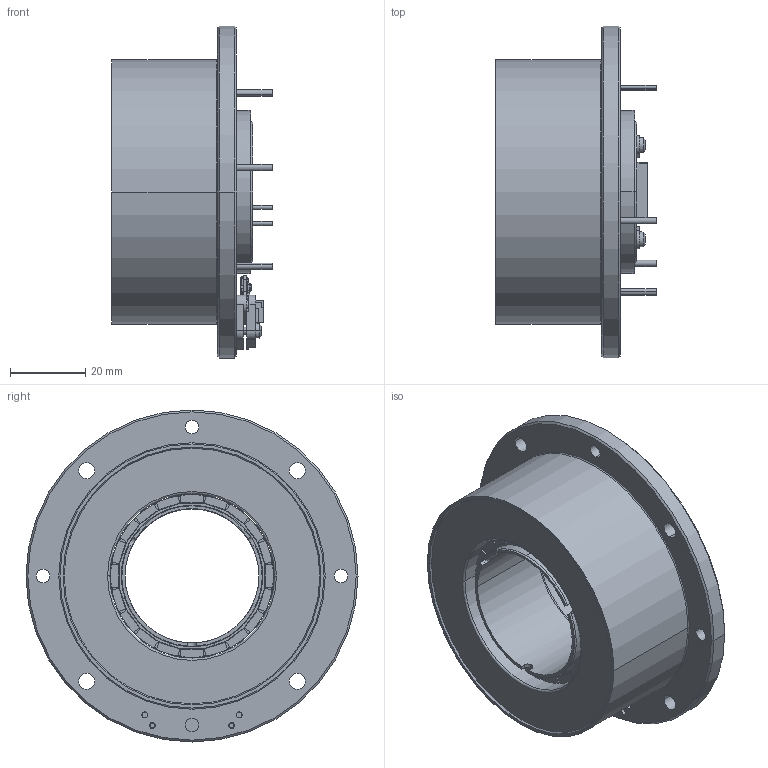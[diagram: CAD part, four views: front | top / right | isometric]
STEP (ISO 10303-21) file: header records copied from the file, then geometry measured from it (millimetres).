
FILE_DESCRIPTION((''),'2;1');
FILE_NAME('RADIALER-STECKERABGAN_SW0001','2024-01-31T07:57:42',('MMAGVISI'),(''),'CREO PARAMETRIC BY PTC INC, 2023092','CREO PARAMETRIC BY PTC INC, 2023092','');
FILE_SCHEMA(('CONFIG_CONTROL_DESIGN','SHAPE_APPEARANCE_LAYERS_GROUPS'));
Products named in the file (1): RADIALER-STECKERABGAN_SW0001
Bounding box: 42.5 x 88 x 88 mm (x, y, z)
Volume: 99299.2 mm3; surface area: 41086 mm2
Topology: 22 solids, 23 shells, 2752 faces, 7411 edges, 4477 vertices
Faces by surface type: plane 1555, cylinder 806, sphere 228, torus 98, cone 64, bspline 1
Entity records: 107852 total; most frequent: CARTESIAN_POINT 18259, ORIENTED_EDGE 14386, DIRECTION 13640, PRESENTATION_STYLE_ASSIGNMENT 7215, STYLED_ITEM 7215, CURVE_STYLE 7193, EDGE_CURVE 7193, VECTOR 5068
